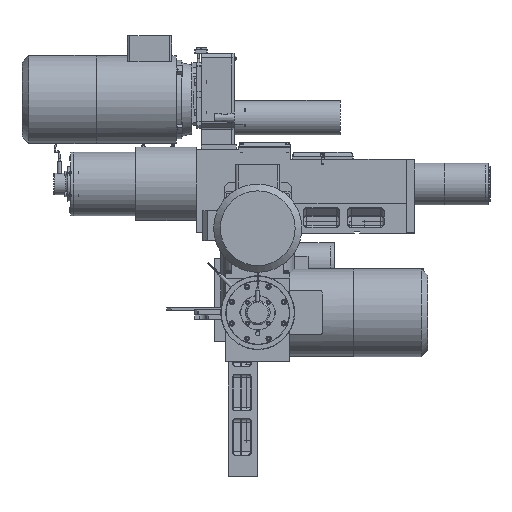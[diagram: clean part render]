
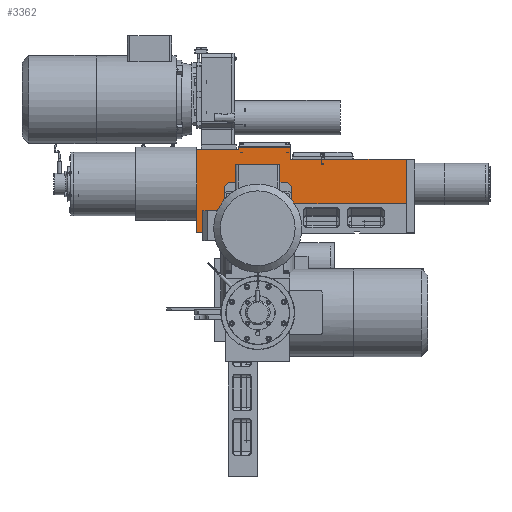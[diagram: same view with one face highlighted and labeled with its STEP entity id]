
A CAD part, front view. The second image highlights one B-rep face of the part: STEP entity #3362.
In plain terms, the highlighted planar face has unit normal (0, -1, 0).
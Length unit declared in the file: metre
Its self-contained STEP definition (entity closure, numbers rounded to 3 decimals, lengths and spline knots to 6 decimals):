
#3362 = ADVANCED_FACE( '', ( #5267 ), #5268, .T. );
#5267 = FACE_OUTER_BOUND( '', #9863, .T. );
#5268 = PLANE( '', #9864 );
#9863 = EDGE_LOOP( '', ( #16472, #16473, #16474, #16475, #16476, #16477, #16478, #16479, #16480, #16481 ) );
#9864 = AXIS2_PLACEMENT_3D( '', #16482, #16483, #16484 );
#16472 = ORIENTED_EDGE( '', *, *, #21346, .T. );
#16473 = ORIENTED_EDGE( '', *, *, #21347, .T. );
#16474 = ORIENTED_EDGE( '', *, *, #21348, .F. );
#16475 = ORIENTED_EDGE( '', *, *, #21349, .T. );
#16476 = ORIENTED_EDGE( '', *, *, #21350, .T. );
#16477 = ORIENTED_EDGE( '', *, *, #21351, .T. );
#16478 = ORIENTED_EDGE( '', *, *, #21352, .T. );
#16479 = ORIENTED_EDGE( '', *, *, #21353, .T. );
#16480 = ORIENTED_EDGE( '', *, *, #21354, .T. );
#16481 = ORIENTED_EDGE( '', *, *, #21355, .T. );
#16482 = CARTESIAN_POINT( '', ( 0.337, -0.003889, 0. ) );
#16483 = DIRECTION( '', ( 0., -1., 0. ) );
#16484 = DIRECTION( '', ( 1., 0., 0. ) );
#21346 = EDGE_CURVE( '', #24325, #24326, #24327, .T. );
#21347 = EDGE_CURVE( '', #24326, #24328, #24329, .T. );
#21348 = EDGE_CURVE( '', #24330, #24328, #24331, .T. );
#21349 = EDGE_CURVE( '', #24330, #24332, #24333, .T. );
#21350 = EDGE_CURVE( '', #24332, #24334, #24335, .T. );
#21351 = EDGE_CURVE( '', #24334, #24336, #24337, .T. );
#21352 = EDGE_CURVE( '', #24336, #24338, #24339, .T. );
#21353 = EDGE_CURVE( '', #24338, #24340, #24341, .T. );
#21354 = EDGE_CURVE( '', #24340, #24342, #24343, .T. );
#21355 = EDGE_CURVE( '', #24342, #24325, #24344, .T. );
#24325 = VERTEX_POINT( '', #30189 );
#24326 = VERTEX_POINT( '', #30190 );
#24327 = LINE( '', #30191, #30192 );
#24328 = VERTEX_POINT( '', #30193 );
#24329 = LINE( '', #30194, #30195 );
#24330 = VERTEX_POINT( '', #30196 );
#24331 = LINE( '', #30197, #30198 );
#24332 = VERTEX_POINT( '', #30199 );
#24333 = LINE( '', #30200, #30201 );
#24334 = VERTEX_POINT( '', #30202 );
#24335 = LINE( '', #30203, #30204 );
#24336 = VERTEX_POINT( '', #30205 );
#24337 = LINE( '', #30206, #30207 );
#24338 = VERTEX_POINT( '', #30208 );
#24339 = LINE( '', #30209, #30210 );
#24340 = VERTEX_POINT( '', #30211 );
#24341 = LINE( '', #30212, #30213 );
#24342 = VERTEX_POINT( '', #30214 );
#24343 = LINE( '', #30215, #30216 );
#24344 = LINE( '', #30217, #30218 );
#30189 = CARTESIAN_POINT( '', ( -0.003, -0.003889, 0.11 ) );
#30190 = CARTESIAN_POINT( '', ( -0.088, -0.003889, 0.11 ) );
#30191 = CARTESIAN_POINT( '', ( 0.14575, -0.003889, 0.11 ) );
#30192 = VECTOR( '', #34834, 1. );
#30193 = CARTESIAN_POINT( '', ( -0.088, -0.003889, -0.059 ) );
#30194 = CARTESIAN_POINT( '', ( -0.088, -0.003889, -0.059 ) );
#30195 = VECTOR( '', #34835, 1. );
#30196 = CARTESIAN_POINT( '', ( -0.005, -0.003889, -0.059 ) );
#30197 = CARTESIAN_POINT( '', ( -0.005, -0.003889, -0.059 ) );
#30198 = VECTOR( '', #34836, 1. );
#30199 = CARTESIAN_POINT( '', ( -0.005, -0.003889, 0. ) );
#30200 = CARTESIAN_POINT( '', ( -0.005, -0.003889, -0.059 ) );
#30201 = VECTOR( '', #34837, 1. );
#30202 = CARTESIAN_POINT( '', ( 0.337, -0.003889, 0. ) );
#30203 = CARTESIAN_POINT( '', ( -0.005, -0.003889, 0. ) );
#30204 = VECTOR( '', #34838, 1. );
#30205 = CARTESIAN_POINT( '', ( 0.337, -0.003889, 0.09 ) );
#30206 = CARTESIAN_POINT( '', ( 0.337, -0.003889, 0. ) );
#30207 = VECTOR( '', #34839, 1. );
#30208 = CARTESIAN_POINT( '', ( 0.102, -0.003889, 0.09 ) );
#30209 = CARTESIAN_POINT( '', ( -0.005, -0.003889, 0.09 ) );
#30210 = VECTOR( '', #34840, 1. );
#30211 = CARTESIAN_POINT( '', ( 0.102, -0.003889, 0.115 ) );
#30212 = CARTESIAN_POINT( '', ( 0.102, -0.003889, 0.09 ) );
#30213 = VECTOR( '', #34841, 1. );
#30214 = CARTESIAN_POINT( '', ( -0.003, -0.003889, 0.115 ) );
#30215 = CARTESIAN_POINT( '', ( -0.005, -0.003889, 0.115 ) );
#30216 = VECTOR( '', #34842, 1. );
#30217 = CARTESIAN_POINT( '', ( -0.003, -0.003889, 0.058735 ) );
#30218 = VECTOR( '', #34843, 1. );
#34834 = DIRECTION( '', ( -1., 0., 0. ) );
#34835 = DIRECTION( '', ( 0., 0., -1. ) );
#34836 = DIRECTION( '', ( -1., 0., 0. ) );
#34837 = DIRECTION( '', ( 0., 0., 1. ) );
#34838 = DIRECTION( '', ( 1., 0., 0. ) );
#34839 = DIRECTION( '', ( 0., 0., 1. ) );
#34840 = DIRECTION( '', ( -1., 0., 0. ) );
#34841 = DIRECTION( '', ( 0., 0., 1. ) );
#34842 = DIRECTION( '', ( -1., 0., 0. ) );
#34843 = DIRECTION( '', ( 0., 0., -1. ) );
